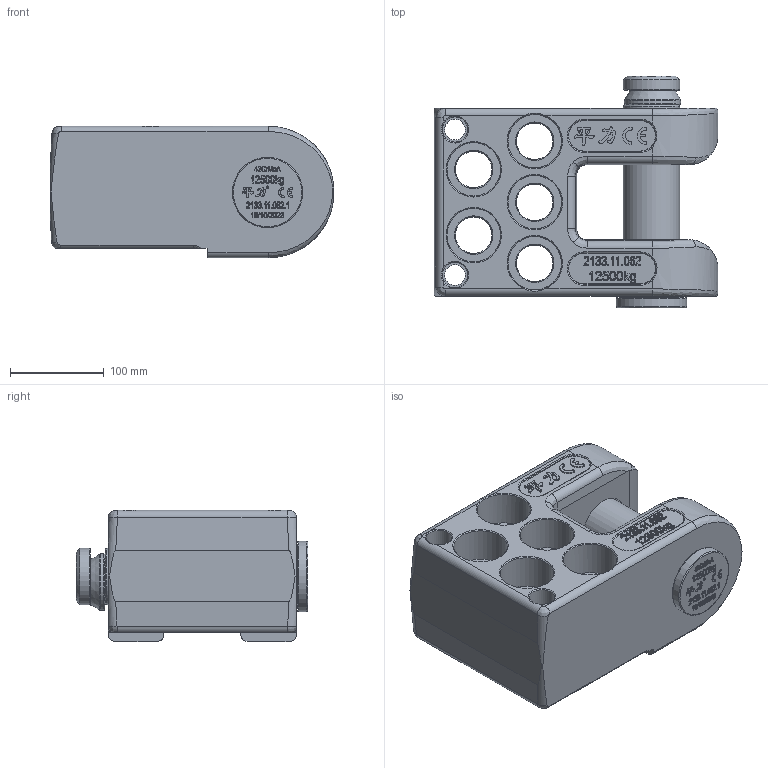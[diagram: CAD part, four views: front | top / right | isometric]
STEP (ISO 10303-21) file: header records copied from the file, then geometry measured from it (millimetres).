
FILE_DESCRIPTION(/* description */ (''),/* implementation_level */ '2;1');
FILE_NAME(/* name */ '2133.11.062.stp',/* time_stamp */ '2025-04-02T14:00:06+08:00',/* author */ (''),/* organization */ (''),/* preprocessor_version */ 'ST-DEVELOPER v16',/* originating_system */ 'SIEMENS PLM Software NX 10.0',/* authorisation */ '');
FILE_SCHEMA (('AP203_CONFIGURATION_CONTROLLED_3D_DESIGN_OF_MECHANICAL_PARTS_AND_ASSEMBLIES_MIM_LF { 1 0 10303 403 2 1 2}'));
Length unit declared in the file: millimetre
Products named in the file (1): Admi177C9AD32ijd
Bounding box: 302 x 247 x 140.06 mm (x, y, z)
Volume: 5289815 mm3; surface area: 424463.9 mm2
Topology: 4 solids, 4 shells, 974 faces, 2553 edges, 1680 vertices
Faces by surface type: plane 428, extrusion 350, cylinder 109, bspline 38, cone 24, torus 21, sphere 4
Full cylindrical faces by diameter (mm): 22 x2, 26 x1, 27 x2, 28.1 x1, 39 x5, 45 x1, 57 x5, 60 x3, 62 x2, 75 x1
Entity records: 38717 total; most frequent: CARTESIAN_POINT 17010, ORIENTED_EDGE 4960, DIRECTION 3162, EDGE_CURVE 2480, VERTEX_POINT 1660, VECTOR 1486, B_SPLINE_CURVE_WITH_KNOTS 1431, EDGE_LOOP 1142
